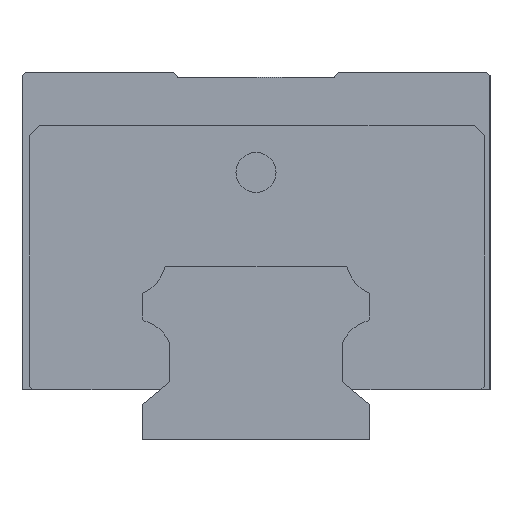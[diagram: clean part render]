
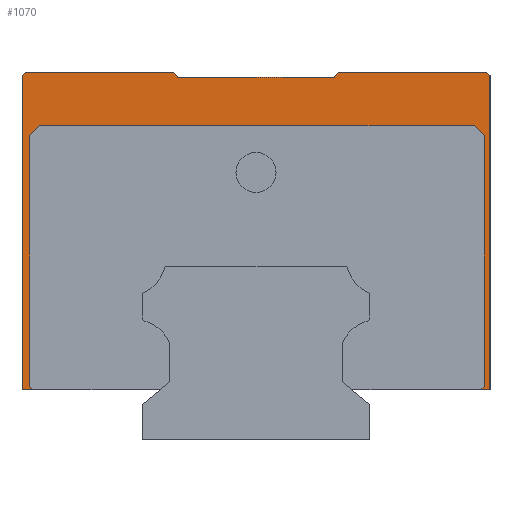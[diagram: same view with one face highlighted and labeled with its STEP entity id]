
A CAD part, left-side view. The second image highlights one B-rep face of the part: STEP entity #1070.
In plain terms, the highlighted planar face has unit normal (-1, 0, 0).
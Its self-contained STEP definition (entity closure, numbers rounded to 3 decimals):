
#8 = CARTESIAN_POINT ( 'NONE',  ( -61.5, -34.5, 55. ) ) ;
#44 = LINE ( 'NONE', #4137, #5032 ) ;
#56 = CARTESIAN_POINT ( 'NONE',  ( -61.5, -34.128, 45.5 ) ) ;
#174 = CARTESIAN_POINT ( 'NONE',  ( -61.5, -35., 55. ) ) ;
#216 = LINE ( 'NONE', #581, #2162 ) ;
#277 = LINE ( 'NONE', #3059, #1325 ) ;
#381 = VERTEX_POINT ( 'NONE', #1135 ) ;
#515 = CARTESIAN_POINT ( 'NONE',  ( -61.5, 35., 54.5 ) ) ;
#535 = CARTESIAN_POINT ( 'NONE',  ( -61.5, 34.5, 55. ) ) ;
#557 = VERTEX_POINT ( 'NONE', #4852 ) ;
#581 = CARTESIAN_POINT ( 'NONE',  ( -61.5, 34.5, 55. ) ) ;
#603 = VERTEX_POINT ( 'NONE', #515 ) ;
#621 = VERTEX_POINT ( 'NONE', #3671 ) ;
#635 = VECTOR ( 'NONE', #4586, 1000. ) ;
#875 = ORIENTED_EDGE ( 'NONE', *, *, #2932, .F. ) ;
#1046 = LINE ( 'NONE', #2549, #2134 ) ;
#1070 = ADVANCED_FACE ( 'NONE', ( #4124 ), #4151, .F. ) ;
#1121 = CARTESIAN_POINT ( 'NONE',  ( -61.5, -33.628, 7.5 ) ) ;
#1135 = CARTESIAN_POINT ( 'NONE',  ( -61.5, 35., 7.5 ) ) ;
#1139 = DIRECTION ( 'NONE',  ( 0., 0.707, -0.707 ) ) ;
#1143 = VERTEX_POINT ( 'NONE', #1612 ) ;
#1172 = DIRECTION ( 'NONE',  ( 0., -1., 0. ) ) ;
#1225 = ORIENTED_EDGE ( 'NONE', *, *, #1994, .F. ) ;
#1263 = DIRECTION ( 'NONE',  ( 0., 0., 1. ) ) ;
#1320 = LINE ( 'NONE', #3511, #2936 ) ;
#1325 = VECTOR ( 'NONE', #5232, 1000. ) ;
#1353 = DIRECTION ( 'NONE',  ( 0., 0.707, -0.707 ) ) ;
#1377 = LINE ( 'NONE', #2655, #5671 ) ;
#1389 = DIRECTION ( 'NONE',  ( 1., 0., 0. ) ) ;
#1407 = CARTESIAN_POINT ( 'NONE',  ( -61.5, 33.872, 8. ) ) ;
#1471 = EDGE_CURVE ( 'NONE', #1997, #3311, #2766, .T. ) ;
#1612 = CARTESIAN_POINT ( 'NONE',  ( -61.5, 11.667, 54.25 ) ) ;
#1631 = ORIENTED_EDGE ( 'NONE', *, *, #2984, .T. ) ;
#1697 = CARTESIAN_POINT ( 'NONE',  ( -61.5, 35., 55. ) ) ;
#1705 = CARTESIAN_POINT ( 'NONE',  ( -61.5, -34.128, 8. ) ) ;
#1786 = EDGE_CURVE ( 'NONE', #381, #603, #44, .T. ) ;
#1791 = ORIENTED_EDGE ( 'NONE', *, *, #2674, .T. ) ;
#1980 = CARTESIAN_POINT ( 'NONE',  ( -61.5, -35., 54.5 ) ) ;
#1985 = LINE ( 'NONE', #5630, #4219 ) ;
#1986 = LINE ( 'NONE', #1121, #5571 ) ;
#1987 = ORIENTED_EDGE ( 'NONE', *, *, #3076, .T. ) ;
#1994 = EDGE_CURVE ( 'NONE', #3544, #557, #1046, .T. ) ;
#1997 = VERTEX_POINT ( 'NONE', #5644 ) ;
#2090 = CARTESIAN_POINT ( 'NONE',  ( -61.5, -32.628, 47. ) ) ;
#2134 = VECTOR ( 'NONE', #4334, 1000. ) ;
#2162 = VECTOR ( 'NONE', #1139, 1000. ) ;
#2206 = LINE ( 'NONE', #5795, #5192 ) ;
#2225 = DIRECTION ( 'NONE',  ( 0., 1., 0. ) ) ;
#2292 = VECTOR ( 'NONE', #1353, 1000. ) ;
#2309 = ORIENTED_EDGE ( 'NONE', *, *, #4021, .F. ) ;
#2339 = VERTEX_POINT ( 'NONE', #3827 ) ;
#2362 = CARTESIAN_POINT ( 'NONE',  ( -61.5, 12.296, 55. ) ) ;
#2400 = DIRECTION ( 'NONE',  ( 0., -0.707, 0.707 ) ) ;
#2450 = DIRECTION ( 'NONE',  ( 0., 0., -1. ) ) ;
#2510 = VERTEX_POINT ( 'NONE', #1705 ) ;
#2530 = ORIENTED_EDGE ( 'NONE', *, *, #3956, .F. ) ;
#2549 = CARTESIAN_POINT ( 'NONE',  ( -61.5, -35., 7.5 ) ) ;
#2558 = LINE ( 'NONE', #3499, #3701 ) ;
#2562 = VECTOR ( 'NONE', #4701, 1000. ) ;
#2655 = CARTESIAN_POINT ( 'NONE',  ( -61.5, 14.65, 7.5 ) ) ;
#2674 = EDGE_CURVE ( 'NONE', #1997, #5492, #1985, .T. ) ;
#2689 = CARTESIAN_POINT ( 'NONE',  ( -61.5, 32.372, 47. ) ) ;
#2734 = EDGE_CURVE ( 'NONE', #5520, #3103, #3445, .T. ) ;
#2766 = LINE ( 'NONE', #2793, #635 ) ;
#2793 = CARTESIAN_POINT ( 'NONE',  ( -61.5, 35., 55. ) ) ;
#2827 = ORIENTED_EDGE ( 'NONE', *, *, #5786, .F. ) ;
#2899 = CARTESIAN_POINT ( 'NONE',  ( -61.5, -35., 7.5 ) ) ;
#2914 = CARTESIAN_POINT ( 'NONE',  ( -61.5, -35., 55. ) ) ;
#2932 = EDGE_CURVE ( 'NONE', #3917, #381, #1377, .T. ) ;
#2936 = VECTOR ( 'NONE', #1263, 1000. ) ;
#2945 = VECTOR ( 'NONE', #4403, 1000. ) ;
#2947 = LINE ( 'NONE', #2914, #4524 ) ;
#2970 = DIRECTION ( 'NONE',  ( 0., 0., -1. ) ) ;
#2984 = EDGE_CURVE ( 'NONE', #621, #3311, #3789, .T. ) ;
#3059 = CARTESIAN_POINT ( 'NONE',  ( -61.5, 33.872, 8. ) ) ;
#3076 = EDGE_CURVE ( 'NONE', #5520, #603, #216, .T. ) ;
#3103 = VERTEX_POINT ( 'NONE', #2362 ) ;
#3204 = EDGE_CURVE ( 'NONE', #4170, #3917, #277, .T. ) ;
#3225 = ORIENTED_EDGE ( 'NONE', *, *, #1786, .F. ) ;
#3231 = LINE ( 'NONE', #3618, #3781 ) ;
#3311 = VERTEX_POINT ( 'NONE', #8 ) ;
#3374 = ORIENTED_EDGE ( 'NONE', *, *, #5479, .F. ) ;
#3445 = LINE ( 'NONE', #1697, #4126 ) ;
#3463 = LINE ( 'NONE', #2090, #4539 ) ;
#3495 = CARTESIAN_POINT ( 'NONE',  ( -61.5, 11.667, 54.25 ) ) ;
#3499 = CARTESIAN_POINT ( 'NONE',  ( -61.5, 33.872, 45.5 ) ) ;
#3509 = VERTEX_POINT ( 'NONE', #4161 ) ;
#3511 = CARTESIAN_POINT ( 'NONE',  ( -61.5, -34.128, 8. ) ) ;
#3544 = VERTEX_POINT ( 'NONE', #2899 ) ;
#3618 = CARTESIAN_POINT ( 'NONE',  ( -61.5, -34.128, 45.5 ) ) ;
#3671 = CARTESIAN_POINT ( 'NONE',  ( -61.5, -35., 54.5 ) ) ;
#3701 = VECTOR ( 'NONE', #2970, 1000. ) ;
#3762 = ORIENTED_EDGE ( 'NONE', *, *, #3848, .F. ) ;
#3781 = VECTOR ( 'NONE', #5445, 1000. ) ;
#3789 = LINE ( 'NONE', #1980, #2562 ) ;
#3814 = ORIENTED_EDGE ( 'NONE', *, *, #3204, .F. ) ;
#3827 = CARTESIAN_POINT ( 'NONE',  ( -61.5, 32.372, 47. ) ) ;
#3842 = CARTESIAN_POINT ( 'NONE',  ( -61.5, -32.628, 47. ) ) ;
#3848 = EDGE_CURVE ( 'NONE', #621, #3544, #2947, .T. ) ;
#3865 = DIRECTION ( 'NONE',  ( 0., 1., 0. ) ) ;
#3891 = EDGE_LOOP ( 'NONE', ( #2309, #2530, #1225, #3762, #1631, #4365, #1791, #3955, #5791, #4062, #1987, #3225, #875, #3814, #5188, #3374, #5303, #2827 ) ) ;
#3917 = VERTEX_POINT ( 'NONE', #5152 ) ;
#3955 = ORIENTED_EDGE ( 'NONE', *, *, #5465, .T. ) ;
#3956 = EDGE_CURVE ( 'NONE', #557, #2510, #1986, .T. ) ;
#4008 = LINE ( 'NONE', #2689, #2292 ) ;
#4021 = EDGE_CURVE ( 'NONE', #2510, #5431, #1320, .T. ) ;
#4062 = ORIENTED_EDGE ( 'NONE', *, *, #2734, .F. ) ;
#4124 = FACE_OUTER_BOUND ( 'NONE', #3891, .T. ) ;
#4126 = VECTOR ( 'NONE', #1172, 1000. ) ;
#4137 = CARTESIAN_POINT ( 'NONE',  ( -61.5, 35., 7.5 ) ) ;
#4151 = PLANE ( 'NONE',  #5735 ) ;
#4161 = CARTESIAN_POINT ( 'NONE',  ( -61.5, 33.872, 45.5 ) ) ;
#4170 = VERTEX_POINT ( 'NONE', #1407 ) ;
#4219 = VECTOR ( 'NONE', #5567, 1000. ) ;
#4334 = DIRECTION ( 'NONE',  ( 0., 1., 0. ) ) ;
#4365 = ORIENTED_EDGE ( 'NONE', *, *, #1471, .F. ) ;
#4386 = EDGE_CURVE ( 'NONE', #3509, #4170, #2558, .T. ) ;
#4403 = DIRECTION ( 'NONE',  ( 0., 0.643, 0.766 ) ) ;
#4414 = VERTEX_POINT ( 'NONE', #3842 ) ;
#4481 = CARTESIAN_POINT ( 'NONE',  ( -61.5, -11.667, 54.25 ) ) ;
#4510 = DIRECTION ( 'NONE',  ( 0., 1., 0. ) ) ;
#4522 = DIRECTION ( 'NONE',  ( 0., 0., 1. ) ) ;
#4524 = VECTOR ( 'NONE', #2450, 1000. ) ;
#4539 = VECTOR ( 'NONE', #3865, 1000. ) ;
#4586 = DIRECTION ( 'NONE',  ( 0., -1., 0. ) ) ;
#4701 = DIRECTION ( 'NONE',  ( 0., 0.707, 0.707 ) ) ;
#4723 = LINE ( 'NONE', #3495, #2945 ) ;
#4829 = EDGE_CURVE ( 'NONE', #1143, #3103, #4723, .T. ) ;
#4852 = CARTESIAN_POINT ( 'NONE',  ( -61.5, -33.628, 7.5 ) ) ;
#4919 = EDGE_CURVE ( 'NONE', #4414, #2339, #3463, .T. ) ;
#5032 = VECTOR ( 'NONE', #4522, 1000. ) ;
#5152 = CARTESIAN_POINT ( 'NONE',  ( -61.5, 33.372, 7.5 ) ) ;
#5188 = ORIENTED_EDGE ( 'NONE', *, *, #4386, .F. ) ;
#5192 = VECTOR ( 'NONE', #5360, 1000. ) ;
#5232 = DIRECTION ( 'NONE',  ( 0., -0.707, -0.707 ) ) ;
#5303 = ORIENTED_EDGE ( 'NONE', *, *, #4919, .F. ) ;
#5360 = DIRECTION ( 'NONE',  ( 0., 1., 0. ) ) ;
#5431 = VERTEX_POINT ( 'NONE', #56 ) ;
#5445 = DIRECTION ( 'NONE',  ( 0., 0.707, 0.707 ) ) ;
#5465 = EDGE_CURVE ( 'NONE', #5492, #1143, #2206, .T. ) ;
#5479 = EDGE_CURVE ( 'NONE', #2339, #3509, #4008, .T. ) ;
#5492 = VERTEX_POINT ( 'NONE', #4481 ) ;
#5520 = VERTEX_POINT ( 'NONE', #535 ) ;
#5567 = DIRECTION ( 'NONE',  ( 0., 0.643, -0.766 ) ) ;
#5571 = VECTOR ( 'NONE', #2400, 1000. ) ;
#5630 = CARTESIAN_POINT ( 'NONE',  ( -61.5, -12.296, 55. ) ) ;
#5644 = CARTESIAN_POINT ( 'NONE',  ( -61.5, -12.296, 55. ) ) ;
#5671 = VECTOR ( 'NONE', #2225, 1000. ) ;
#5735 = AXIS2_PLACEMENT_3D ( 'NONE', #174, #1389, #4510 ) ;
#5786 = EDGE_CURVE ( 'NONE', #5431, #4414, #3231, .T. ) ;
#5791 = ORIENTED_EDGE ( 'NONE', *, *, #4829, .T. ) ;
#5795 = CARTESIAN_POINT ( 'NONE',  ( -61.5, -11.667, 54.25 ) ) ;
